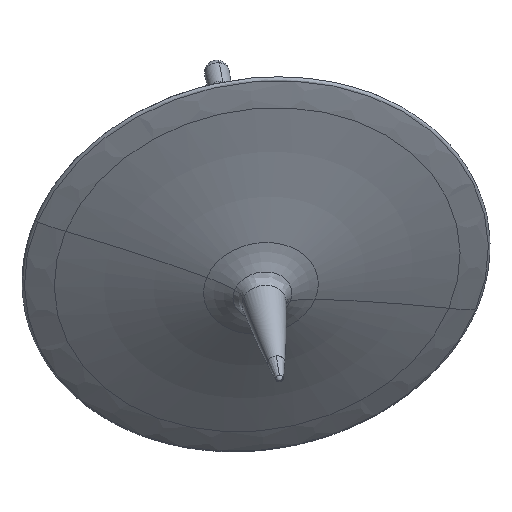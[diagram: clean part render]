
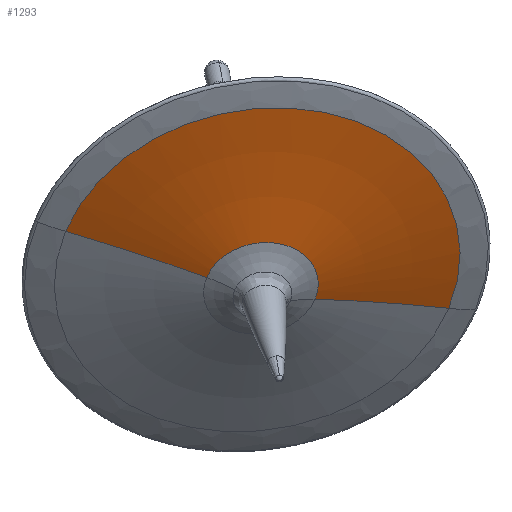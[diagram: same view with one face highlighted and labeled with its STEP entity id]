
A CAD part, isometric view. The second image highlights one B-rep face of the part: STEP entity #1293.
In plain terms, the highlighted toroidal (fillet/blend) face has major radius 531.288 mm and minor radius 1800 mm.
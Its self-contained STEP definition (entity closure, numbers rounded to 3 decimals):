
#17 = EDGE_CURVE ( 'NONE', #1550, #1042, #1551, .T. ) ;
#21 = FACE_OUTER_BOUND ( 'NONE', #1194, .T. ) ;
#29 = CIRCLE ( 'NONE', #146, 1800. ) ;
#62 = CARTESIAN_POINT ( 'NONE',  ( -73.55, 190., 0. ) ) ;
#89 = ORIENTED_EDGE ( 'NONE', *, *, #17, .T. ) ;
#138 = DIRECTION ( 'NONE',  ( 1., 0., 0. ) ) ;
#146 = AXIS2_PLACEMENT_3D ( 'NONE', #335, #1025, #138 ) ;
#166 = CARTESIAN_POINT ( 'NONE',  ( -260.034, 228.618, 0. ) ) ;
#241 = DIRECTION ( 'NONE',  ( 0., 0., -1. ) ) ;
#263 = DIRECTION ( 'NONE',  ( 0., 1., 0. ) ) ;
#264 = CARTESIAN_POINT ( 'NONE',  ( 0., 190., 0. ) ) ;
#335 = CARTESIAN_POINT ( 'NONE',  ( 531.288, -1550.826, 0. ) ) ;
#380 = TOROIDAL_SURFACE ( 'NONE', #1852, 531.288, 1800. ) ;
#483 = DIRECTION ( 'NONE',  ( -1., 0., 0. ) ) ;
#614 = DIRECTION ( 'NONE',  ( -1., 0., 0. ) ) ;
#662 = EDGE_CURVE ( 'NONE', #943, #1515, #29, .T. ) ;
#727 = ORIENTED_EDGE ( 'NONE', *, *, #1175, .T. ) ;
#882 = ORIENTED_EDGE ( 'NONE', *, *, #1934, .F. ) ;
#897 = AXIS2_PLACEMENT_3D ( 'NONE', #264, #1018, #1087 ) ;
#908 = CARTESIAN_POINT ( 'NONE',  ( 0., -1550.826, 0. ) ) ;
#923 = AXIS2_PLACEMENT_3D ( 'NONE', #929, #241, #1370 ) ;
#929 = CARTESIAN_POINT ( 'NONE',  ( -531.288, -1550.826, 0. ) ) ;
#943 = VERTEX_POINT ( 'NONE', #1142 ) ;
#956 = CARTESIAN_POINT ( 'NONE',  ( 73.55, 190., 0. ) ) ;
#1018 = DIRECTION ( 'NONE',  ( 0., 1., 0. ) ) ;
#1025 = DIRECTION ( 'NONE',  ( 0., 0., 1. ) ) ;
#1042 = VERTEX_POINT ( 'NONE', #62 ) ;
#1087 = DIRECTION ( 'NONE',  ( -1., 0., 0. ) ) ;
#1142 = CARTESIAN_POINT ( 'NONE',  ( 260.034, 228.618, 0. ) ) ;
#1175 = EDGE_CURVE ( 'NONE', #1042, #1515, #1254, .T. ) ;
#1176 = AXIS2_PLACEMENT_3D ( 'NONE', #1223, #1983, #614 ) ;
#1194 = EDGE_LOOP ( 'NONE', ( #1486, #882, #89, #727 ) ) ;
#1223 = CARTESIAN_POINT ( 'NONE',  ( 0., 228.618, 0. ) ) ;
#1254 = CIRCLE ( 'NONE', #897, 73.55 ) ;
#1293 = ADVANCED_FACE ( 'NONE', ( #21 ), #380, .F. ) ;
#1370 = DIRECTION ( 'NONE',  ( -1., 0., 0. ) ) ;
#1486 = ORIENTED_EDGE ( 'NONE', *, *, #662, .F. ) ;
#1508 = CIRCLE ( 'NONE', #1176, 260.034 ) ;
#1515 = VERTEX_POINT ( 'NONE', #956 ) ;
#1550 = VERTEX_POINT ( 'NONE', #166 ) ;
#1551 = CIRCLE ( 'NONE', #923, 1800. ) ;
#1852 = AXIS2_PLACEMENT_3D ( 'NONE', #908, #263, #483 ) ;
#1934 = EDGE_CURVE ( 'NONE', #1550, #943, #1508, .T. ) ;
#1983 = DIRECTION ( 'NONE',  ( 0., 1., 0. ) ) ;
